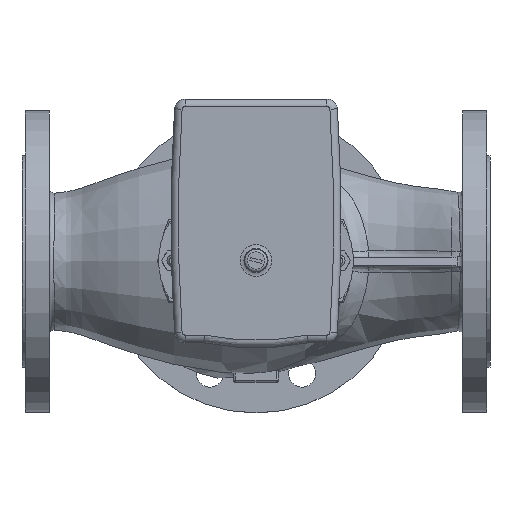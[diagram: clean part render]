
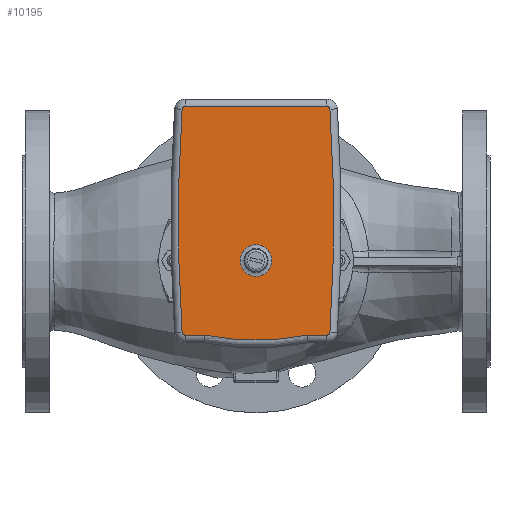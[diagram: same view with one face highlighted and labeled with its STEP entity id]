
A CAD part, top view. The second image highlights one B-rep face of the part: STEP entity #10195.
In plain terms, the highlighted planar face has unit normal (0, 0, 1).
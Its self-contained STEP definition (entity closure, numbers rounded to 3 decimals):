
#535=CIRCLE('',#14758,10.521);
#536=CIRCLE('',#14760,1.964);
#537=CIRCLE('',#14761,169.964);
#538=CIRCLE('',#14762,1.964);
#539=CIRCLE('',#14763,1096.964);
#540=CIRCLE('',#14764,1.964);
#541=CIRCLE('',#14765,1.964);
#542=CIRCLE('',#14766,1096.964);
#1247=LINE('',#23362,#1829);
#1248=LINE('',#23366,#1830);
#1249=LINE('',#23374,#1831);
#1829=VECTOR('',#16816,1000.);
#1830=VECTOR('',#16819,1000.);
#1831=VECTOR('',#16826,1000.);
#3490=ORIENTED_EDGE('',*,*,#5712,.T.);
#3491=ORIENTED_EDGE('',*,*,#5713,.T.);
#3492=ORIENTED_EDGE('',*,*,#5714,.T.);
#3493=ORIENTED_EDGE('',*,*,#5715,.T.);
#3494=ORIENTED_EDGE('',*,*,#5716,.T.);
#3495=ORIENTED_EDGE('',*,*,#5717,.T.);
#3496=ORIENTED_EDGE('',*,*,#5718,.T.);
#3497=ORIENTED_EDGE('',*,*,#5719,.T.);
#3498=ORIENTED_EDGE('',*,*,#5720,.T.);
#3499=ORIENTED_EDGE('',*,*,#5721,.T.);
#3500=ORIENTED_EDGE('',*,*,#5722,.T.);
#5712=EDGE_CURVE('',#6961,#6961,#535,.T.);
#5713=EDGE_CURVE('',#6962,#6963,#536,.F.);
#5714=EDGE_CURVE('',#6963,#6964,#1247,.F.);
#5715=EDGE_CURVE('',#6964,#6965,#537,.F.);
#5716=EDGE_CURVE('',#6965,#6966,#1248,.F.);
#5717=EDGE_CURVE('',#6966,#6967,#538,.F.);
#5718=EDGE_CURVE('',#6967,#6968,#539,.F.);
#5719=EDGE_CURVE('',#6968,#6969,#540,.F.);
#5720=EDGE_CURVE('',#6969,#6970,#1249,.F.);
#5721=EDGE_CURVE('',#6970,#6971,#541,.F.);
#5722=EDGE_CURVE('',#6971,#6962,#542,.F.);
#6961=VERTEX_POINT('',#23357);
#6962=VERTEX_POINT('',#23360);
#6963=VERTEX_POINT('',#23361);
#6964=VERTEX_POINT('',#23363);
#6965=VERTEX_POINT('',#23365);
#6966=VERTEX_POINT('',#23367);
#6967=VERTEX_POINT('',#23369);
#6968=VERTEX_POINT('',#23371);
#6969=VERTEX_POINT('',#23373);
#6970=VERTEX_POINT('',#23375);
#6971=VERTEX_POINT('',#23377);
#8229=EDGE_LOOP('',(#3490));
#8230=EDGE_LOOP('',(#3491,#3492,#3493,#3494,#3495,#3496,#3497,#3498,#3499,
#3500));
#9141=FACE_BOUND('',#8229,.T.);
#9142=FACE_BOUND('',#8230,.T.);
#9724=PLANE('',#14759);
#10195=ADVANCED_FACE('',(#9141,#9142),#9724,.F.);
#14758=AXIS2_PLACEMENT_3D('',#23356,#16810,#16811);
#14759=AXIS2_PLACEMENT_3D('',#23358,#16812,#16813);
#14760=AXIS2_PLACEMENT_3D('',#23359,#16814,#16815);
#14761=AXIS2_PLACEMENT_3D('',#23364,#16817,#16818);
#14762=AXIS2_PLACEMENT_3D('',#23368,#16820,#16821);
#14763=AXIS2_PLACEMENT_3D('',#23370,#16822,#16823);
#14764=AXIS2_PLACEMENT_3D('',#23372,#16824,#16825);
#14765=AXIS2_PLACEMENT_3D('',#23376,#16827,#16828);
#14766=AXIS2_PLACEMENT_3D('',#23378,#16829,#16830);
#16810=DIRECTION('',(0.,0.,-1.));
#16811=DIRECTION('',(-1.,0.,0.));
#16812=DIRECTION('',(0.,0.,-1.));
#16813=DIRECTION('',(-1.,0.,0.));
#16814=DIRECTION('',(0.,0.,-1.));
#16815=DIRECTION('',(-1.,0.,0.));
#16816=DIRECTION('',(0.,1.,0.));
#16817=DIRECTION('',(0.,0.,-1.));
#16818=DIRECTION('',(-1.,0.,0.));
#16819=DIRECTION('',(0.,1.,0.));
#16820=DIRECTION('',(0.,0.,-1.));
#16821=DIRECTION('',(-1.,0.,0.));
#16822=DIRECTION('',(0.,0.,-1.));
#16823=DIRECTION('',(-1.,0.,0.));
#16824=DIRECTION('',(0.,0.,-1.));
#16825=DIRECTION('',(-1.,0.,0.));
#16826=DIRECTION('',(0.,-1.,0.));
#16827=DIRECTION('',(0.,0.,-1.));
#16828=DIRECTION('',(-1.,0.,0.));
#16829=DIRECTION('',(0.,0.,-1.));
#16830=DIRECTION('',(-1.,0.,0.));
#23356=CARTESIAN_POINT('',(0.,0.,109.084));
#23357=CARTESIAN_POINT('',(-10.521,0.,109.084));
#23358=CARTESIAN_POINT('',(0.,0.,109.084));
#23359=CARTESIAN_POINT('',(-47.508,47.,109.084));
#23360=CARTESIAN_POINT('',(-47.64,48.96,109.084));
#23361=CARTESIAN_POINT('',(-49.472,47.,109.084));
#23362=CARTESIAN_POINT('',(-49.472,34.599,109.084));
#23363=CARTESIAN_POINT('',(-49.472,34.096,109.084));
#23364=CARTESIAN_POINT('',(117.037,0.,109.084));
#23365=CARTESIAN_POINT('',(-49.472,-34.096,109.084));
#23366=CARTESIAN_POINT('',(-49.472,-47.,109.084));
#23367=CARTESIAN_POINT('',(-49.472,-47.,109.084));
#23368=CARTESIAN_POINT('',(-47.508,-47.,109.084));
#23369=CARTESIAN_POINT('',(-47.64,-48.96,109.084));
#23370=CARTESIAN_POINT('',(26.246,1045.513,109.084));
#23371=CARTESIAN_POINT('',(100.132,-48.96,109.084));
#23372=CARTESIAN_POINT('',(100.,-47.,109.084));
#23373=CARTESIAN_POINT('',(101.964,-47.,109.084));
#23374=CARTESIAN_POINT('',(101.964,47.,109.084));
#23375=CARTESIAN_POINT('',(101.964,47.,109.084));
#23376=CARTESIAN_POINT('',(100.,47.,109.084));
#23377=CARTESIAN_POINT('',(100.132,48.96,109.084));
#23378=CARTESIAN_POINT('',(26.246,-1045.513,109.084));
